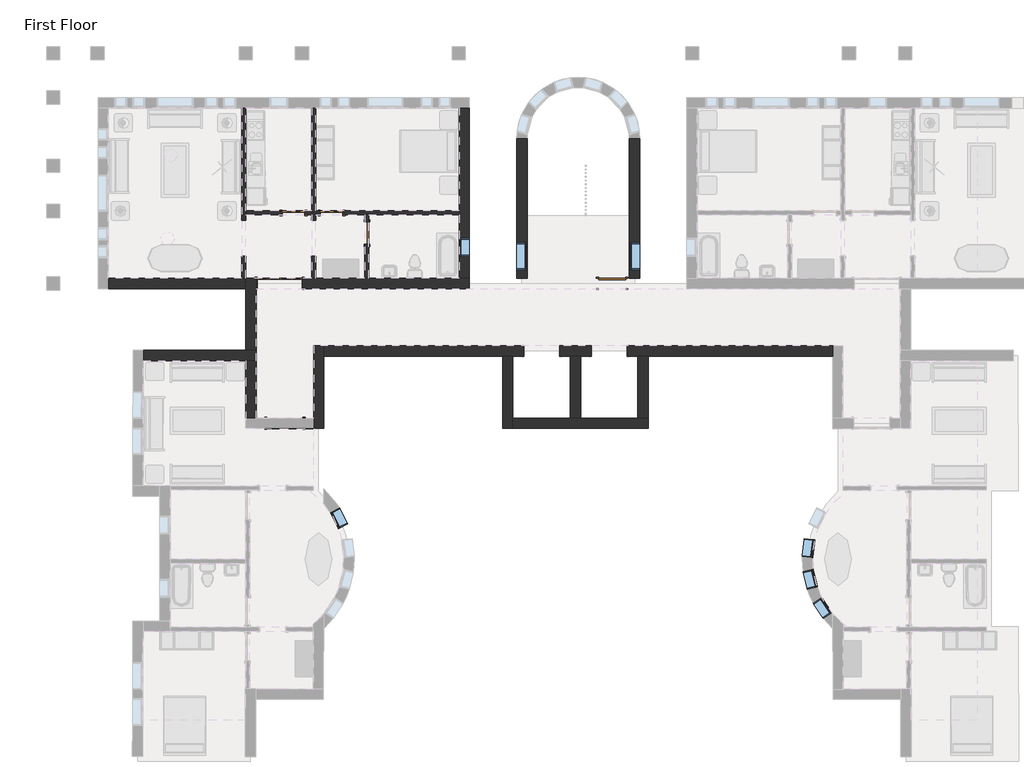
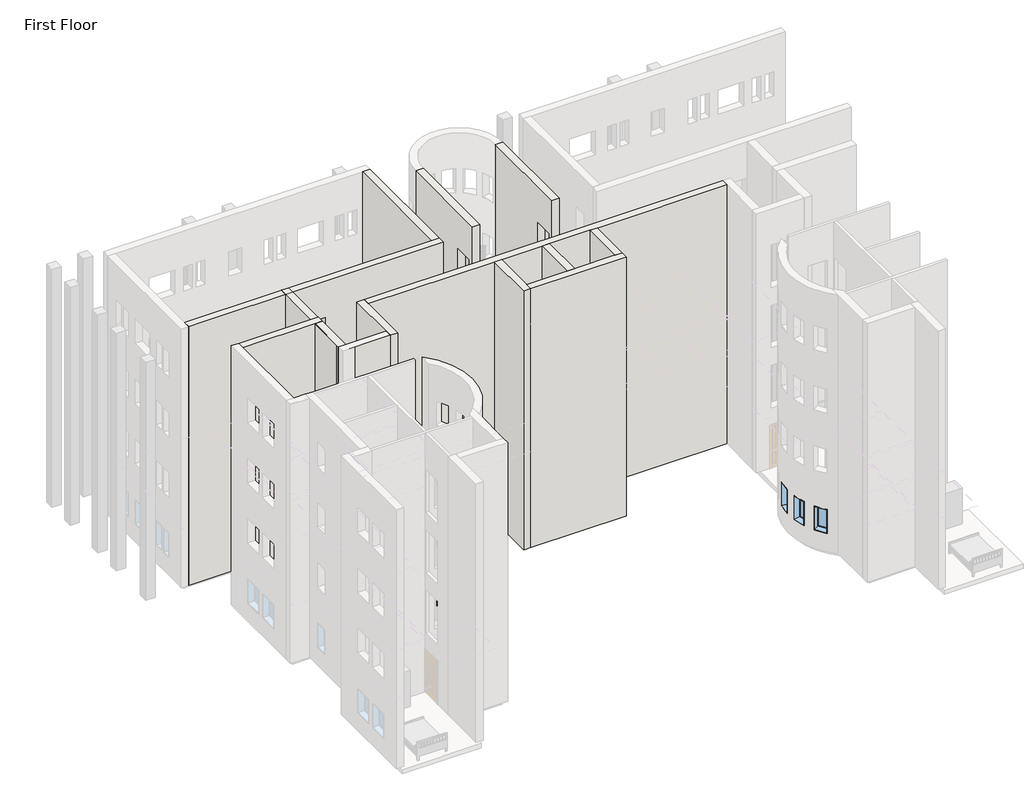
# One storey, part 11 of 22: 18 walls, 7 windows, 6 doors.
"""IFC4 building model written with IfcOpenShell, lengths in millimetres."""

from ifc_helpers import new_model, si_unit, frame, origin, origin_with_axes, place, context, project, spatial, polyline, outline, extrude, faceted_brep, transform, mapped, element, save
from components import m_bifold_4_panel_1220_x_2134mm_46e1cad3, m_bifold_4_panel_1525_x_2134mm_ac598c8b, m_single_decorative_2_0762_x_2134mm_0d0af7cb, m_single_decorative_2_0762_x_2134mm_2fe67c8e, m_single_flush_0762_x_2134mm_a28375c7, m_single_flush_0915_x_2134mm_1eac8bb1, m_fixed_0610_x_1220mm_2c28ef1d, m_fixed_0610_x_1220mm_1ea27827, m_fixed_0915_x_1220mm_bde29121

model = new_model("IFC4")

# Units and contexts
model_context = context("Model", 3, world=origin())
ifc_project = project(units=[si_unit("LENGTHUNIT", "METRE", prefix="MILLI")], contexts=[model_context])

# Site, building, storey
site = spatial("IfcSite", under=ifc_project)
building = spatial("IfcBuilding", under=site)
storey = spatial("IfcBuildingStorey", under=building, Name="First Floor", Elevation=0.0)

# Doors
placement = place(None, origin())
m_bifold_4_panel_1220_x_2134mm_shape = m_bifold_4_panel_1220_x_2134mm_46e1cad3(model_context)
element("IfcDoor", 1, ObjectType="M_Bifold-4 Panel : 1220 x 2134mm", at=placement, inside=storey, context=model_context, shape_type="MappedRepresentation", body=[
    mapped(m_bifold_4_panel_1220_x_2134mm_shape, transform((-28863.3459343, -8240.6820888, 0.0), x_axis=(-0.9999989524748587, 0.0014474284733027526, 0.0), y_axis=(-0.0014474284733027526, -0.9999989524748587, 0.0), z_axis=(0.0, 0.0, 1.0))),
])
m_bifold_4_panel_1525_x_2134mm_shape = m_bifold_4_panel_1525_x_2134mm_ac598c8b(model_context)
element("IfcDoor", 2, ObjectType="M_Bifold-4 Panel : 1525 x 2134mm", at=placement, inside=storey, context=model_context, shape_type="MappedRepresentation", body=[
    mapped(m_bifold_4_panel_1525_x_2134mm_shape, transform((-29038.0916203, -3514.8811614, 0.0), x_axis=(-1.0, 0.0, 0.0), y_axis=(0.0, -1.0, 0.0), z_axis=(0.0, 0.0, 1.0))),
])
m_single_decorative_2_0762_x_2134mm_shape = m_single_decorative_2_0762_x_2134mm_0d0af7cb(model_context)
element("IfcDoor", 3, ObjectType="M_Single-Decorative 2 : 0762 x 2134mm", at=placement, inside=storey, context=model_context, shape_type="MappedRepresentation", body=[
    mapped(m_single_decorative_2_0762_x_2134mm_shape, transform((-27285.0916203, -1138.1311614, 0.0), x_axis=(-1.0, 0.0, 0.0), y_axis=(0.0, -1.0, 0.0), z_axis=(0.0, 0.0, 1.0))),
])
m_single_decorative_2_0762_x_2134mm_2_shape = m_single_decorative_2_0762_x_2134mm_2fe67c8e(model_context)
element("IfcDoor", 4, ObjectType="M_Single-Decorative 2 : 0762 x 2134mm", at=placement, inside=storey, context=model_context, shape_type="MappedRepresentation", body=[
    mapped(m_single_decorative_2_0762_x_2134mm_2_shape, transform((-28571.8416203, -1138.1311614, 0.0), x_axis=(1.0, 0.0, 0.0), y_axis=(0.0, 1.0, 0.0), z_axis=(0.0, 0.0, 1.0))),
])
m_single_flush_0762_x_2134mm_shape = m_single_flush_0762_x_2134mm_a28375c7(model_context)
element("IfcDoor", 5, ObjectType="M_Single-Flush : 0762 x 2134mm", at=placement, inside=storey, context=model_context, shape_type="MappedRepresentation", body=[
    mapped(m_single_flush_0762_x_2134mm_shape, transform((-26094.5916203, -1815.8811614, 0.0), x_axis=(0.0, 1.0, 0.0), y_axis=(-1.0, 0.0, 0.0), z_axis=(0.0, 0.0, 1.0))),
])
m_single_flush_0915_x_2134mm_shape = m_single_flush_0915_x_2134mm_1eac8bb1(model_context)
element("IfcDoor", 6, ObjectType="M_Single-Flush : 0915 x 2134mm", at=placement, inside=storey, context=model_context, shape_type="MappedRepresentation", body=[
    mapped(m_single_flush_0915_x_2134mm_shape, transform((-17814.0916203, -3514.8811614, 0.0), x_axis=(1.0, 0.0, 0.0), y_axis=(0.0, 1.0, 0.0), z_axis=(0.0, 0.0, 1.0))),
])

# Walls
element("IfcWall", 7, ObjectType="Exterior - Brick on Mtl. Stud", at=placement, inside=storey, context=model_context, shape_type="Brep", body=[
    faceted_brep([(-27895.0916203, -5625.8811614, 0.0), (-27895.0916203, -8064.2811614, 0.0), (-27895.0916203, -8067.0833858, 0.0), (-27895.0916203, -8414.2811614, 0.0), (-27895.0916203, -8414.2811614, 13107.0), (-27895.0916203, -8067.0833858, 13107.0), (-27895.0916203, -8064.2811614, 13107.0), (-27895.0916203, -5625.8811614, 13107.0), (-27545.0916203, -5625.8811614, 0.0), (-27545.0916203, -5625.8811614, 13107.0), (-27545.0916203, -5975.8811614, 13107.0), (-27545.0916203, -8414.2811614, 13107.0), (-27545.0916203, -8414.2811614, 0.0), (-27545.0916203, -5975.8811614, 0.0), (-27545.5958262, -8414.2811614, 0.0), (-27545.5958262, -8414.2811614, 13107.0)], [[[0, 1, 2, 3, 4, 5, 6, 7]], [[8, 9, 10, 11, 12, 13]], [[3, 2, 1, 0, 8, 13, 12, 14]], [[7, 6, 5, 4, 15, 11, 10, 9]], [[4, 3, 14, 12, 11, 15]], [[0, 7, 9, 8]]]),
])
element("IfcWall", 8, ObjectType="Exterior - Brick on Mtl. Stud", at=placement, inside=storey, context=model_context, shape_type="Brep", body=[
    faceted_brep([(-29831.0916203, -8064.2811614, 0.0), (-29831.0916203, -3689.8811614, 0.0), (-29831.0916203, -3524.8811614, 0.0), (-29831.0916203, -3339.8811614, 0.0), (-29831.0916203, -3339.8811614, 13107.0), (-29831.0916203, -3689.8811614, 13107.0), (-29831.0916203, -8064.2811614, 13107.0), (-30181.0916203, -8064.2811614, 0.0), (-30181.0916203, -8064.2811614, 13107.0), (-30181.0916203, -3339.8811614, 13107.0), (-30181.0916203, -3339.8811614, 0.0), (-30181.0916203, -3524.8811614, 0.0), (-29996.0916203, -8064.2811614, 0.0), (-29996.0916203, -3339.8811614, 0.0), (-29996.0916203, -3524.8811614, 0.0)], [[[0, 1, 2, 3, 4, 5, 6]], [[7, 8, 9, 10, 11]], [[6, 5, 4, 9, 8]], [[0, 6, 8, 7, 12]], [[4, 3, 13, 10, 9]], [[12, 7, 11, 14]], [[3, 2, 14, 13]], [[14, 11, 10, 13]], [[2, 1, 0, 12, 14]]]),
])
element("IfcWall", 9, ObjectType="Exterior - Brick on Mtl. Stud", at=placement, inside=storey, context=model_context, shape_type="Brep", body=[
    faceted_brep([(-18518.0916203, -5625.8811614, 0.0), (-19584.0916203, -5625.8811614, 0.0), (-19584.0916203, -5625.8811614, 2134.0), (-20804.0916203, -5625.8811614, 2134.0), (-20804.0916203, -5625.8811614, 0.0), (-27545.0916203, -5625.8811614, 0.0), (-27545.0916203, -5625.8811614, 13107.0), (-10369.0916203, -5625.8811614, 13107.0), (-10369.0916203, -5625.8811614, 0.0), (-17298.0916203, -5625.8811614, 0.0), (-17298.0916203, -5625.8811614, 2134.0), (-18518.0916203, -5625.8811614, 2134.0), (-20804.0916203, -5625.8811614, 11278.0), (-20804.0916203, -5625.8811614, 9144.0), (-19584.0916203, -5625.8811614, 9144.0), (-19584.0916203, -5625.8811614, 11278.0), (-17298.0916203, -5625.8811614, 11278.0), (-18518.0916203, -5625.8811614, 11278.0), (-18518.0916203, -5625.8811614, 9144.0), (-17298.0916203, -5625.8811614, 9144.0), (-20804.0916203, -5625.8811614, 5182.0), (-20804.0916203, -5625.8811614, 3048.0), (-19584.0916203, -5625.8811614, 3048.0), (-19584.0916203, -5625.8811614, 5182.0), (-17298.0916203, -5625.8811614, 5182.0), (-18518.0916203, -5625.8811614, 5182.0), (-18518.0916203, -5625.8811614, 3048.0), (-17298.0916203, -5625.8811614, 3048.0), (-20804.0916203, -5625.8811614, 8230.0), (-20804.0916203, -5625.8811614, 6096.0), (-19584.0916203, -5625.8811614, 6096.0), (-19584.0916203, -5625.8811614, 8230.0), (-17298.0916203, -5625.8811614, 8230.0), (-18518.0916203, -5625.8811614, 8230.0), (-18518.0916203, -5625.8811614, 6096.0), (-17298.0916203, -5625.8811614, 6096.0), (-19584.0916203, -5975.8811614, 2134.0), (-19584.0916203, -5975.8811614, 0.0), (-19226.0916203, -5975.8811614, 0.0), (-18876.0916203, -5975.8811614, 0.0), (-18518.0916203, -5975.8811614, 0.0), (-18518.0916203, -5975.8811614, 2134.0), (-17298.0916203, -5975.8811614, 2134.0), (-17298.0916203, -5975.8811614, 0.0), (-16940.0916203, -5975.8811614, 0.0), (-16590.0916203, -5975.8811614, 0.0), (-10369.0916203, -5975.8811614, 0.0), (-10369.0916203, -5975.8811614, 13107.0), (-16590.0916203, -5975.8811614, 13107.0), (-16940.0916203, -5975.8811614, 13107.0), (-18876.0916203, -5975.8811614, 13107.0), (-19226.0916203, -5975.8811614, 13107.0), (-21162.0916203, -5975.8811614, 13107.0), (-21512.0916203, -5975.8811614, 13107.0), (-27545.0916203, -5975.8811614, 13107.0), (-27545.0916203, -5975.8811614, 0.0), (-21512.0916203, -5975.8811614, 0.0), (-21162.0916203, -5975.8811614, 0.0), (-20804.0916203, -5975.8811614, 0.0), (-20804.0916203, -5975.8811614, 2134.0), (-20804.0916203, -5975.8811614, 11278.0), (-19584.0916203, -5975.8811614, 11278.0), (-19584.0916203, -5975.8811614, 9144.0), (-20804.0916203, -5975.8811614, 9144.0), (-17298.0916203, -5975.8811614, 11278.0), (-17298.0916203, -5975.8811614, 9144.0), (-18518.0916203, -5975.8811614, 9144.0), (-18518.0916203, -5975.8811614, 11278.0), (-20804.0916203, -5975.8811614, 5182.0), (-19584.0916203, -5975.8811614, 5182.0), (-19584.0916203, -5975.8811614, 3048.0), (-20804.0916203, -5975.8811614, 3048.0), (-17298.0916203, -5975.8811614, 5182.0), (-17298.0916203, -5975.8811614, 3048.0), (-18518.0916203, -5975.8811614, 3048.0), (-18518.0916203, -5975.8811614, 5182.0), (-20804.0916203, -5975.8811614, 8230.0), (-19584.0916203, -5975.8811614, 8230.0), (-19584.0916203, -5975.8811614, 6096.0), (-20804.0916203, -5975.8811614, 6096.0), (-17298.0916203, -5975.8811614, 8230.0), (-17298.0916203, -5975.8811614, 6096.0), (-18518.0916203, -5975.8811614, 6096.0), (-18518.0916203, -5975.8811614, 8230.0)], [[[0, 1, 2, 3, 4, 5, 6, 7, 8, 9, 10, 11], [12, 13, 14, 15], [16, 17, 18, 19], [20, 21, 22, 23], [24, 25, 26, 27], [28, 29, 30, 31], [32, 33, 34, 35]], [[36, 37, 38, 39, 40, 41, 42, 43, 44, 45, 46, 47, 48, 49, 50, 51, 52, 53, 54, 55, 56, 57, 58, 59], [60, 61, 62, 63], [64, 65, 66, 67], [68, 69, 70, 71], [72, 73, 74, 75], [76, 77, 78, 79], [80, 81, 82, 83]], [[9, 8, 46, 45, 44, 43]], [[58, 57, 56, 55, 5, 4]], [[40, 39, 38, 37, 1, 0]], [[7, 6, 54, 53, 52, 51, 50, 49, 48, 47]], [[6, 5, 55, 54]], [[8, 7, 47, 46]], [[43, 42, 10, 9]], [[41, 40, 0, 11]], [[42, 41, 11, 10]], [[4, 3, 59, 58]], [[2, 1, 37, 36]], [[3, 2, 36, 59]], [[13, 12, 60, 63]], [[14, 13, 63, 62]], [[15, 14, 62, 61]], [[12, 15, 61, 60]], [[65, 64, 16, 19]], [[66, 65, 19, 18]], [[67, 66, 18, 17]], [[64, 67, 17, 16]], [[21, 20, 68, 71]], [[22, 21, 71, 70]], [[23, 22, 70, 69]], [[20, 23, 69, 68]], [[73, 72, 24, 27]], [[74, 73, 27, 26]], [[75, 74, 26, 25]], [[72, 75, 25, 24]], [[29, 28, 76, 79]], [[30, 29, 79, 78]], [[31, 30, 78, 77]], [[28, 31, 77, 76]], [[81, 80, 32, 35]], [[82, 81, 35, 34]], [[83, 82, 34, 33]], [[80, 83, 33, 32]]]),
])
element("IfcWall", 10, ObjectType="Exterior - Brick on Mtl. Stud", at=placement, inside=storey, context=model_context, shape_type="SweptSolid", body=[
    extrude(outline(polyline([(1362.1188386, 0.0), (-3339.8811614, 0.0), (-3339.8811614, 13107.0), (1362.1188386, 13107.0), (1362.1188386, 0.0)]), holes=[polyline([(-2142.3811614, 915.0), (-2142.3811614, 2135.0), (-3057.3811614, 2135.0), (-3057.3811614, 915.0), (-2142.3811614, 915.0)]), polyline([(-2142.3811614, 10059.0), (-2142.3811614, 11279.0), (-3057.3811614, 11279.0), (-3057.3811614, 10059.0), (-2142.3811614, 10059.0)]), polyline([(-2142.3811614, 3963.0), (-2142.3811614, 5183.0), (-3057.3811614, 5183.0), (-3057.3811614, 3963.0), (-2142.3811614, 3963.0)]), polyline([(-2142.3811614, 7011.0), (-2142.3811614, 8231.0), (-3057.3811614, 8231.0), (-3057.3811614, 7011.0), (-2142.3811614, 7011.0)])]), frame((-21037.0916203, 0.0, 0.0), z_axis=(1.0, 0.0, 0.0), x_axis=(0.0, 1.0, 0.0)), (0.0, 0.0, 1.0), 350.0),
])
element("IfcWall", 11, ObjectType="Exterior - Brick on Mtl. Stud", at=placement, inside=storey, context=model_context, shape_type="SweptSolid", body=[
    extrude(outline(polyline([(-3339.8811614, 0.0), (-3339.8811614, 13107.0), (1362.1188386, 13107.0), (1362.1188386, 0.0), (-3339.8811614, 0.0)]), holes=[polyline([(-3057.3811614, 915.0), (-2142.3811614, 915.0), (-2142.3811614, 2135.0), (-3057.3811614, 2135.0), (-3057.3811614, 915.0)]), polyline([(-3057.3811614, 10059.0), (-2142.3811614, 10059.0), (-2142.3811614, 11279.0), (-3057.3811614, 11279.0), (-3057.3811614, 10059.0)]), polyline([(-3057.3811614, 3963.0), (-2142.3811614, 3963.0), (-2142.3811614, 5183.0), (-3057.3811614, 5183.0), (-3057.3811614, 3963.0)]), polyline([(-3057.3811614, 7011.0), (-2142.3811614, 7011.0), (-2142.3811614, 8231.0), (-3057.3811614, 8231.0), (-3057.3811614, 7011.0)])]), frame((-17227.0916203, 0.0, 0.0), z_axis=(1.0, 0.0, 0.0), x_axis=(0.0, 1.0, 0.0)), (0.0, 0.0, 1.0), 350.0),
])
element("IfcWall", 12, ObjectType="Exterior - Brick on Mtl. Stud", at=placement, inside=storey, context=model_context, shape_type="Brep", body=[
    faceted_brep([(-21512.0916203, -5975.8811614, 0.0), (-21512.0916203, -8414.2811614, 0.0), (-21512.0916203, -8414.2811614, 13107.0), (-21512.0916203, -5975.8811614, 13107.0), (-21162.0916203, -5975.8811614, 0.0), (-21162.0916203, -5975.8811614, 13107.0), (-21162.0916203, -8064.2811614, 13107.0), (-21162.0916203, -8414.2811614, 13107.0), (-21162.0916203, -8414.2811614, 0.0), (-21162.0916203, -8064.2811614, 0.0)], [[[0, 1, 2, 3]], [[4, 5, 6, 7, 8, 9]], [[1, 0, 4, 9, 8]], [[3, 2, 7, 6, 5]], [[0, 3, 5, 4]], [[2, 1, 8, 7]]]),
])
element("IfcWall", 13, ObjectType="Exterior - Brick on Mtl. Stud", at=placement, inside=storey, context=model_context, shape_type="Brep", body=[
    faceted_brep([(-21162.0916203, -8414.2811614, 0.0), (-16590.0916203, -8414.2811614, 0.0), (-16590.0916203, -8414.2811614, 13107.0), (-21162.0916203, -8414.2811614, 13107.0), (-21162.0916203, -8064.2811614, 0.0), (-21162.0916203, -8064.2811614, 13107.0), (-19226.0916203, -8064.2811614, 13107.0), (-18876.0916203, -8064.2811614, 13107.0), (-16940.0916203, -8064.2811614, 13107.0), (-16590.0916203, -8064.2811614, 13107.0), (-16590.0916203, -8064.2811614, 0.0), (-16940.0916203, -8064.2811614, 0.0), (-18876.0916203, -8064.2811614, 0.0), (-19226.0916203, -8064.2811614, 0.0)], [[[0, 1, 2, 3]], [[4, 5, 6, 7, 8, 9, 10, 11, 12, 13]], [[1, 0, 4, 13, 12, 11, 10]], [[3, 2, 9, 8, 7, 6, 5]], [[0, 3, 5, 4]], [[2, 1, 10, 9]]]),
])
element("IfcWall", 14, ObjectType="Exterior - Brick on Mtl. Stud", at=placement, inside=storey, context=model_context, shape_type="SweptSolid", body=[
    extrude(outline(polyline([(-16590.0916203, -5975.8811614), (-16590.0916203, -8064.2811614), (-16940.0916203, -8064.2811614), (-16940.0916203, -5975.8811614), (-16590.0916203, -5975.8811614)])), origin_with_axes(), (0.0, 0.0, 1.0), 13107.0),
])
element("IfcWall", 15, ObjectType="Exterior - Brick on Mtl. Stud", at=placement, inside=storey, context=model_context, shape_type="SweptSolid", body=[
    extrude(outline(polyline([(-18876.0916203, -5975.8811614), (-18876.0916203, -8064.2811614), (-19226.0916203, -8064.2811614), (-19226.0916203, -5975.8811614), (-18876.0916203, -5975.8811614)])), origin_with_axes(), (0.0, 0.0, 1.0), 13107.0),
])
element("IfcWall", 16, ObjectType="Exterior - Brick on Mtl. Stud", at=placement, inside=storey, context=model_context, shape_type="Brep", body=[
    faceted_brep([(-22628.8416203, -3689.8811614, 13107.0), (-34820.8416203, -3689.8811614, 13107.0), (-34820.8416203, -3689.8811614, 0.0), (-29800.5916203, -3689.8811614, 0.0), (-29800.5916203, -3689.8811614, 2134.0), (-28275.5916203, -3689.8811614, 2134.0), (-28275.5916203, -3689.8811614, 0.0), (-22628.8416203, -3689.8811614, 0.0), (-29800.5916203, -3689.8811614, 9144.0), (-29800.5916203, -3689.8811614, 11278.0), (-28275.5916203, -3689.8811614, 11278.0), (-28275.5916203, -3689.8811614, 9144.0), (-29800.5916203, -3689.8811614, 3048.0), (-29800.5916203, -3689.8811614, 5182.0), (-28275.5916203, -3689.8811614, 5182.0), (-28275.5916203, -3689.8811614, 3048.0), (-29800.5916203, -3689.8811614, 6096.0), (-29800.5916203, -3689.8811614, 8230.0), (-28275.5916203, -3689.8811614, 8230.0), (-28275.5916203, -3689.8811614, 6096.0), (-34820.8416203, -3339.8811614, 13107.0), (-22978.8416203, -3339.8811614, 13107.0), (-22628.8416203, -3339.8811614, 13107.0), (-22628.8416203, -3339.8811614, 0.0), (-22978.8416203, -3339.8811614, 0.0), (-26026.8416203, -3339.8811614, 0.0), (-26162.3416203, -3339.8811614, 0.0), (-27827.3416203, -3339.8811614, 0.0), (-27962.8416203, -3339.8811614, 0.0), (-28275.5916203, -3339.8811614, 0.0), (-28275.5916203, -3339.8811614, 2134.0), (-29800.5916203, -3339.8811614, 2134.0), (-29800.5916203, -3339.8811614, 0.0), (-30181.0916203, -3339.8811614, 0.0), (-30316.5916203, -3339.8811614, 0.0), (-34820.8416203, -3339.8811614, 0.0), (-29800.5916203, -3339.8811614, 9144.0), (-28275.5916203, -3339.8811614, 9144.0), (-28275.5916203, -3339.8811614, 11278.0), (-29800.5916203, -3339.8811614, 11278.0), (-29800.5916203, -3339.8811614, 3048.0), (-28275.5916203, -3339.8811614, 3048.0), (-28275.5916203, -3339.8811614, 5182.0), (-29800.5916203, -3339.8811614, 5182.0), (-29800.5916203, -3339.8811614, 6096.0), (-28275.5916203, -3339.8811614, 6096.0), (-28275.5916203, -3339.8811614, 8230.0), (-29800.5916203, -3339.8811614, 8230.0)], [[[0, 1, 2, 3, 4, 5, 6, 7], [8, 9, 10, 11], [12, 13, 14, 15], [16, 17, 18, 19]], [[20, 21, 22, 23, 24, 25, 26, 27, 28, 29, 30, 31, 32, 33, 34, 35], [36, 37, 38, 39], [40, 41, 42, 43], [44, 45, 46, 47]], [[2, 35, 34, 33, 32, 3]], [[23, 7, 6, 29, 28, 27, 26, 25, 24]], [[1, 0, 22, 21, 20]], [[2, 1, 20, 35]], [[0, 7, 23, 22]], [[31, 4, 3, 32]], [[4, 31, 30, 5]], [[5, 30, 29, 6]], [[9, 8, 36, 39]], [[10, 9, 39, 38]], [[11, 10, 38, 37]], [[8, 11, 37, 36]], [[13, 12, 40, 43]], [[14, 13, 43, 42]], [[15, 14, 42, 41]], [[12, 15, 41, 40]], [[17, 16, 44, 47]], [[18, 17, 47, 46]], [[19, 18, 46, 45]], [[16, 19, 45, 44]]]),
])
element("IfcWall", 17, ObjectType="Exterior - Brick on Mtl. Stud", at=placement, inside=storey, context=model_context, shape_type="Brep", body=[
    faceted_brep([(-22628.8416203, -3339.8811614, 0.0), (-22628.8416203, 2406.1188386, 0.0), (-22628.8416203, 2406.1188386, 13107.0), (-22628.8416203, -3339.8811614, 13107.0), (-22628.8416203, -1989.8811614, 915.0), (-22628.8416203, -2599.8811614, 915.0), (-22628.8416203, -2599.8811614, 2135.0), (-22628.8416203, -1989.8811614, 2135.0), (-22628.8416203, -1989.8811614, 10059.0), (-22628.8416203, -2599.8811614, 10059.0), (-22628.8416203, -2599.8811614, 11279.0), (-22628.8416203, -1989.8811614, 11279.0), (-22628.8416203, -1989.8811614, 3963.0), (-22628.8416203, -2599.8811614, 3963.0), (-22628.8416203, -2599.8811614, 5183.0), (-22628.8416203, -1989.8811614, 5183.0), (-22628.8416203, -1989.8811614, 7011.0), (-22628.8416203, -2599.8811614, 7011.0), (-22628.8416203, -2599.8811614, 8231.0), (-22628.8416203, -1989.8811614, 8231.0), (-22978.8416203, -3339.8811614, 0.0), (-22978.8416203, -3339.8811614, 13107.0), (-22978.8416203, 2406.1188386, 13107.0), (-22978.8416203, 2406.1188386, 0.0), (-22978.8416203, -1070.3811614, 0.0), (-22978.8416203, -1205.8811614, 0.0), (-22978.8416203, -1989.8811614, 915.0), (-22978.8416203, -1989.8811614, 2135.0), (-22978.8416203, -2599.8811614, 2135.0), (-22978.8416203, -2599.8811614, 915.0), (-22978.8416203, -1989.8811614, 10059.0), (-22978.8416203, -1989.8811614, 11279.0), (-22978.8416203, -2599.8811614, 11279.0), (-22978.8416203, -2599.8811614, 10059.0), (-22978.8416203, -1989.8811614, 3963.0), (-22978.8416203, -1989.8811614, 5183.0), (-22978.8416203, -2599.8811614, 5183.0), (-22978.8416203, -2599.8811614, 3963.0), (-22978.8416203, -1989.8811614, 7011.0), (-22978.8416203, -1989.8811614, 8231.0), (-22978.8416203, -2599.8811614, 8231.0), (-22978.8416203, -2599.8811614, 7011.0), (-22813.8416203, -3339.8811614, 0.0), (-22813.8416203, 2406.1188386, 0.0)], [[[0, 1, 2, 3], [4, 5, 6, 7], [8, 9, 10, 11], [12, 13, 14, 15], [16, 17, 18, 19]], [[20, 21, 22, 23, 24, 25], [26, 27, 28, 29], [30, 31, 32, 33], [34, 35, 36, 37], [38, 39, 40, 41]], [[3, 2, 22, 21]], [[0, 3, 21, 20, 42]], [[2, 1, 43, 23, 22]], [[27, 26, 4, 7]], [[28, 27, 7, 6]], [[29, 28, 6, 5]], [[26, 29, 5, 4]], [[1, 0, 42, 43]], [[31, 30, 8, 11]], [[32, 31, 11, 10]], [[33, 32, 10, 9]], [[30, 33, 9, 8]], [[35, 34, 12, 15]], [[36, 35, 15, 14]], [[37, 36, 14, 13]], [[34, 37, 13, 12]], [[39, 38, 16, 19]], [[40, 39, 19, 18]], [[41, 40, 18, 17]], [[38, 41, 17, 16]], [[42, 20, 25, 24, 23, 43]]]),
])
element("IfcWall", 18, ObjectType="Exterior - Brick on Mtl. Stud", at=placement, inside=storey, context=model_context, shape_type="Brep", body=[
    faceted_brep([(-33638.2854077, -6122.7684869, 0.0), (-30178.2890322, -6127.7765894, 0.0), (-30013.289205, -6128.0154151, 0.0), (-29828.2893988, -6128.2831894, 0.0), (-29828.2893988, -6128.2831894, 13107.0), (-30178.2890322, -6127.7765894, 13107.0), (-33638.2854077, -6122.7684869, 13107.0), (-33637.7788078, -5772.7688535, 0.0), (-33637.7788078, -5772.7688535, 13107.0), (-29827.7827988, -5778.283556, 13107.0), (-29827.7827988, -5778.283556, 0.0), (-30012.782605, -5778.0157818, 0.0), (-33638.046582, -5957.7686598, 0.0), (-29828.0505731, -5963.2833622, 0.0), (-30013.0503793, -5963.015588, 0.0)], [[[0, 1, 2, 3, 4, 5, 6]], [[7, 8, 9, 10, 11]], [[6, 5, 4, 9, 8]], [[0, 6, 8, 7, 12]], [[4, 3, 13, 10, 9]], [[12, 7, 11, 14]], [[3, 2, 14, 13]], [[14, 11, 10, 13]], [[2, 1, 0, 12, 14]]]),
])
element("IfcWall", 19, ObjectType="Exterior - Brick on Mtl. Stud", at=placement, inside=storey, context=model_context, shape_type="Brep", body=[
    faceted_brep([(-30178.2890322, -6127.7765894, 0.0), (-30181.091987, -8064.2811614, 0.0), (-30181.091987, -8064.2811614, 13107.0), (-30178.2890322, -6127.7765894, 13107.0), (-29828.2893988, -6128.2831894, 0.0), (-29828.2893988, -6128.2831894, 13107.0), (-29831.0916203, -8064.2811614, 13107.0), (-29831.0916203, -8064.2811614, 0.0), (-30013.289205, -6128.0154151, 0.0), (-30016.0918141, -8064.2811614, 0.0)], [[[0, 1, 2, 3]], [[4, 5, 6, 7]], [[3, 2, 6, 5]], [[0, 3, 5, 4, 8]], [[8, 4, 7, 9]], [[2, 1, 9, 7, 6]], [[1, 0, 8, 9]]]),
])
element("IfcWall", 20, ObjectType="Exterior - Brick on Mtl. Stud", at=placement, inside=storey, context=model_context, shape_type="Brep", body=[
    faceted_brep([(-27895.0916203, -8417.0837525, 13107.0), (-29831.0916203, -8414.281528, 13107.0), (-29831.0916203, -8414.281528, 0.0), (-29473.5985953, -8414.7989741, 0.0), (-29473.5985953, -8414.7989741, 2134.0), (-28253.5998733, -8416.5648369, 2134.0), (-28253.5998733, -8416.5648369, 0.0), (-27895.0916203, -8417.0837525, 0.0), (-29473.5985953, -8414.7989741, 9144.0), (-29473.5985953, -8414.7989741, 11278.0), (-28253.5998733, -8416.5648369, 11278.0), (-28253.5998733, -8416.5648369, 9144.0), (-29473.5985953, -8414.7989741, 3048.0), (-29473.5985953, -8414.7989741, 5182.0), (-28253.5998733, -8416.5648369, 5182.0), (-28253.5998733, -8416.5648369, 3048.0), (-29473.5985953, -8414.7989741, 6096.0), (-29473.5985953, -8414.7989741, 8230.0), (-28253.5998733, -8416.5648369, 8230.0), (-28253.5998733, -8416.5648369, 6096.0), (-29831.0916203, -8064.2811614, 13107.0), (-27895.0916203, -8067.0833858, 13107.0), (-27895.0916203, -8067.0833858, 0.0), (-28253.0932733, -8066.5652035, 0.0), (-28253.0932733, -8066.5652035, 2134.0), (-29473.0919953, -8064.7993408, 2134.0), (-29473.0919953, -8064.7993408, 0.0), (-29831.0916203, -8064.2811614, 0.0), (-29473.0919953, -8064.7993408, 9144.0), (-28253.0932733, -8066.5652035, 9144.0), (-28253.0932733, -8066.5652035, 11278.0), (-29473.0919953, -8064.7993408, 11278.0), (-29473.0919953, -8064.7993408, 3048.0), (-28253.0932733, -8066.5652035, 3048.0), (-28253.0932733, -8066.5652035, 5182.0), (-29473.0919953, -8064.7993408, 5182.0), (-29473.0919953, -8064.7993408, 6096.0), (-28253.0932733, -8066.5652035, 6096.0), (-28253.0932733, -8066.5652035, 8230.0), (-29473.0919953, -8064.7993408, 8230.0), (-27895.0916203, -8414.2811614, 13107.0), (-29473.3597696, -8249.799147, 0.0), (-28253.3610476, -8251.5650097, 0.0), (-29831.0916203, -8249.2813552, 0.0), (-27895.0916203, -8252.0835796, 0.0), (-27895.0916203, -8414.2811614, 0.0)], [[[0, 1, 2, 3, 4, 5, 6, 7], [8, 9, 10, 11], [12, 13, 14, 15], [16, 17, 18, 19]], [[20, 21, 22, 23, 24, 25, 26, 27], [28, 29, 30, 31], [32, 33, 34, 35], [36, 37, 38, 39]], [[1, 0, 40, 21, 20]], [[25, 4, 3, 41, 26]], [[4, 25, 24, 5]], [[5, 24, 23, 42, 6]], [[43, 27, 26, 41]], [[22, 44, 42, 23]], [[9, 8, 28, 31]], [[10, 9, 31, 30]], [[11, 10, 30, 29]], [[8, 11, 29, 28]], [[13, 12, 32, 35]], [[14, 13, 35, 34]], [[15, 14, 34, 33]], [[12, 15, 33, 32]], [[17, 16, 36, 39]], [[18, 17, 39, 38]], [[19, 18, 38, 37]], [[16, 19, 37, 36]], [[0, 7, 45, 44, 22, 21, 40]], [[2, 1, 20, 27, 43]], [[2, 43, 41, 3]], [[44, 45, 7, 6, 42]]]),
])
element("IfcWall", 21, ObjectType="Interior - 135mm Partition (2-hr)", at=placement, inside=storey, context=model_context, shape_type="Brep", body=[
    faceted_brep([(-30316.5916203, 2406.1188386, 0.0), (-30316.5916203, -1380.8811614, 0.0), (-30316.5916203, -1380.8811614, 2134.0), (-30316.5916203, -2600.8811614, 2134.0), (-30316.5916203, -2600.8811614, 0.0), (-30316.5916203, -3339.8811614, 0.0), (-30316.5916203, -3339.8811614, 3048.0), (-30316.5916203, 2406.1188386, 3048.0), (-30181.0916203, -1380.8811614, 2134.0), (-30181.0916203, -1380.8811614, 0.0), (-30181.0916203, -1205.8811614, 0.0), (-30181.0916203, -1070.3811614, 0.0), (-30181.0916203, 2406.1188386, 0.0), (-30181.0916203, 2406.1188386, 3048.0), (-30181.0916203, -1070.3811614, 3048.0), (-30181.0916203, -1205.8811614, 3048.0), (-30181.0916203, -3339.8811614, 3048.0), (-30181.0916203, -3339.8811614, 0.0), (-30181.0916203, -2600.8811614, 0.0), (-30181.0916203, -2600.8811614, 2134.0)], [[[0, 1, 2, 3, 4, 5, 6, 7]], [[8, 9, 10, 11, 12, 13, 14, 15, 16, 17, 18, 19]], [[18, 17, 5, 4]], [[12, 11, 10, 9, 1, 0]], [[7, 6, 16, 15, 14, 13]], [[0, 7, 13, 12]], [[6, 5, 17, 16]], [[4, 3, 19, 18]], [[2, 1, 9, 8]], [[3, 2, 8, 19]]]),
])
element("IfcWall", 22, ObjectType="Interior - 135mm Partition (2-hr)", at=placement, inside=storey, context=model_context, shape_type="Brep", body=[
    faceted_brep([(-27962.8416203, -2600.8811614, 2134.0), (-27962.8416203, -2600.8811614, 0.0), (-27962.8416203, -3339.8811614, 0.0), (-27962.8416203, -3339.8811614, 3048.0), (-27962.8416203, -1205.8811614, 3048.0), (-27962.8416203, -1070.3811614, 3048.0), (-27962.8416203, 2406.1188386, 3048.0), (-27962.8416203, 2406.1188386, 0.0), (-27962.8416203, -1070.3811614, 0.0), (-27962.8416203, -1205.8811614, 0.0), (-27962.8416203, -1380.8811614, 0.0), (-27962.8416203, -1380.8811614, 2134.0), (-27827.3416203, -3339.8811614, 0.0), (-27827.3416203, -2600.8811614, 0.0), (-27827.3416203, -2600.8811614, 2134.0), (-27827.3416203, -1380.8811614, 2134.0), (-27827.3416203, -1380.8811614, 0.0), (-27827.3416203, -1205.8811614, 0.0), (-27827.3416203, -1070.3811614, 0.0), (-27827.3416203, 2406.1188386, 0.0), (-27827.3416203, 2406.1188386, 3048.0), (-27827.3416203, -1070.3811614, 3048.0), (-27827.3416203, -1205.8811614, 3048.0), (-27827.3416203, -3339.8811614, 3048.0)], [[[0, 1, 2, 3, 4, 5, 6, 7, 8, 9, 10, 11]], [[12, 13, 14, 15, 16, 17, 18, 19, 20, 21, 22, 23]], [[2, 1, 13, 12]], [[10, 9, 8, 7, 19, 18, 17, 16]], [[6, 5, 4, 3, 23, 22, 21, 20]], [[7, 6, 20, 19]], [[3, 2, 12, 23]], [[16, 15, 11, 10]], [[14, 13, 1, 0]], [[15, 14, 0, 11]]]),
])
element("IfcWall", 23, ObjectType="Interior - 135mm Partition (2-hr)", at=placement, inside=storey, context=model_context, shape_type="Brep", body=[
    faceted_brep([(-22978.8416203, -1070.3811614, 3048.0), (-22978.8416203, -1070.3811614, 0.0), (-26904.0916203, -1070.3811614, 0.0), (-26904.0916203, -1070.3811614, 2134.0), (-27666.0916203, -1070.3811614, 2134.0), (-27666.0916203, -1070.3811614, 0.0), (-27827.3416203, -1070.3811614, 0.0), (-27827.3416203, -1070.3811614, 3048.0), (-22978.8416203, -1205.8811614, 0.0), (-22978.8416203, -1205.8811614, 3048.0), (-26026.8416203, -1205.8811614, 3048.0), (-26162.3416203, -1205.8811614, 3048.0), (-27827.3416203, -1205.8811614, 3048.0), (-27827.3416203, -1205.8811614, 0.0), (-27666.0916203, -1205.8811614, 0.0), (-27666.0916203, -1205.8811614, 2134.0), (-26904.0916203, -1205.8811614, 2134.0), (-26904.0916203, -1205.8811614, 0.0), (-26162.3416203, -1205.8811614, 0.0), (-26026.8416203, -1205.8811614, 0.0)], [[[0, 1, 2, 3, 4, 5, 6, 7]], [[8, 9, 10, 11, 12, 13, 14, 15, 16, 17, 18, 19]], [[1, 8, 19, 18, 17, 2]], [[5, 14, 13, 6]], [[9, 0, 7, 12, 11, 10]], [[1, 0, 9, 8]], [[7, 6, 13, 12]], [[15, 14, 5, 4]], [[16, 15, 4, 3]], [[17, 16, 3, 2]]]),
    faceted_brep([(-30181.0916203, -1070.3811614, 0.0), (-30181.0916203, -1070.3811614, 3048.0), (-27962.8416203, -1070.3811614, 3048.0), (-27962.8416203, -1070.3811614, 0.0), (-28190.8416203, -1070.3811614, 0.0), (-28190.8416203, -1070.3811614, 2134.0), (-28952.8416203, -1070.3811614, 2134.0), (-28952.8416203, -1070.3811614, 0.0), (-30181.0916203, -1205.8811614, 3048.0), (-30181.0916203, -1205.8811614, 0.0), (-28952.8416203, -1205.8811614, 0.0), (-28952.8416203, -1205.8811614, 2134.0), (-28190.8416203, -1205.8811614, 2134.0), (-28190.8416203, -1205.8811614, 0.0), (-27962.8416203, -1205.8811614, 0.0), (-27962.8416203, -1205.8811614, 3048.0)], [[[0, 1, 2, 3, 4, 5, 6, 7]], [[8, 9, 10, 11, 12, 13, 14, 15]], [[9, 0, 7, 10]], [[13, 4, 3, 14]], [[1, 8, 15, 2]], [[1, 0, 9, 8]], [[3, 2, 15, 14]], [[5, 4, 13, 12]], [[6, 5, 12, 11]], [[7, 6, 11, 10]]]),
])
element("IfcWall", 24, ObjectType="Interior - 135mm Partition (2-hr)", at=placement, inside=storey, context=model_context, shape_type="SweptSolid", body=[
    extrude(outline(polyline([(-1205.8811614, 0.0), (-1434.8811614, 0.0), (-1434.8811614, 2134.0), (-2196.8811614, 2134.0), (-2196.8811614, 0.0), (-3339.8811614, 0.0), (-3339.8811614, 3048.0), (-1205.8811614, 3048.0), (-1205.8811614, 0.0)])), frame((-26162.3416203, 0.0, 0.0), z_axis=(1.0, 0.0, 0.0), x_axis=(0.0, 1.0, 0.0)), (0.0, 0.0, 1.0), 135.5),
])

# Windows
m_fixed_0610_x_1220mm_shape = m_fixed_0610_x_1220mm_2c28ef1d(model_context)
element("IfcWindow", 25, ObjectType="M_Fixed : 0610 x 1220mm", at=placement, inside=storey, context=model_context, shape_type="MappedRepresentation", body=[
    mapped(m_fixed_0610_x_1220mm_shape, transform((-11196.3470359, -12451.3940589, 0.0), x_axis=(-0.11817340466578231, -0.992992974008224, 0.0), y_axis=(0.992992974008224, -0.11817340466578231, 0.0), z_axis=(0.0, 0.0, 1.0))),
])
m_fixed_0610_x_1220mm_2_shape = m_fixed_0610_x_1220mm_1ea27827(model_context)
element("IfcWindow", 26, ObjectType="M_Fixed : 0610 x 1220mm", at=placement, inside=storey, context=model_context, shape_type="MappedRepresentation", body=[
    mapped(m_fixed_0610_x_1220mm_2_shape, transform((-10720.0033717, -14480.1766106, 0.0), x_axis=(-0.5477575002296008, 0.8366371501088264, 0.0), y_axis=(-0.8366371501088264, -0.5477575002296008, 0.0), z_axis=(0.0, 0.0, 1.0))),
])
element("IfcWindow", 27, ObjectType="M_Fixed : 0610 x 1220mm", at=placement, inside=storey, context=model_context, shape_type="MappedRepresentation", body=[
    mapped(m_fixed_0610_x_1220mm_2_shape, transform((-11137.0397547, -13507.7814548, 0.0), x_axis=(-0.2285769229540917, 0.9735258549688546, 0.0), y_axis=(-0.9735258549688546, -0.2285769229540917, 0.0), z_axis=(0.0, 0.0, 1.0))),
])
element("IfcWindow", 28, ObjectType="M_Fixed : 0610 x 1220mm", at=placement, inside=storey, context=model_context, shape_type="MappedRepresentation", body=[
    mapped(m_fixed_0610_x_1220mm_2_shape, transform((-22790.8416203, -2294.8811614, 0.0), x_axis=(0.0, -1.0, 0.0), y_axis=(1.0, 0.0, 0.0), z_axis=(0.0, 0.0, 1.0))),
])
element("IfcWindow", 29, ObjectType="M_Fixed : 0610 x 1220mm", at=placement, inside=storey, context=model_context, shape_type="MappedRepresentation", body=[
    mapped(m_fixed_0610_x_1220mm_2_shape, transform((-27024.99277, -11439.2287009, 0.0), x_axis=(0.4506702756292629, -0.8926904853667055, 0.0), y_axis=(0.8926904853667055, 0.4506702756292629, 0.0), z_axis=(0.0, 0.0, 1.0))),
])
m_fixed_0915_x_1220mm_shape = m_fixed_0915_x_1220mm_bde29121(model_context)
element("IfcWindow", 30, ObjectType="M_Fixed : 0915 x 1220mm", at=placement, inside=storey, context=model_context, shape_type="MappedRepresentation", body=[
    mapped(m_fixed_0915_x_1220mm_shape, transform((-20875.0916203, -2599.8811614, 0.0), x_axis=(0.0, -1.0, 0.0), y_axis=(1.0, 0.0, 0.0), z_axis=(0.0, 0.0, 1.0))),
])
element("IfcWindow", 31, ObjectType="M_Fixed : 0915 x 1220mm", at=placement, inside=storey, context=model_context, shape_type="MappedRepresentation", body=[
    mapped(m_fixed_0915_x_1220mm_shape, transform((-17039.0916203, -2599.8811614, 0.0), x_axis=(0.0, 1.0, 0.0), y_axis=(-1.0, 0.0, 0.0), z_axis=(0.0, 0.0, 1.0))),
])

save(model, "model.ifc")
